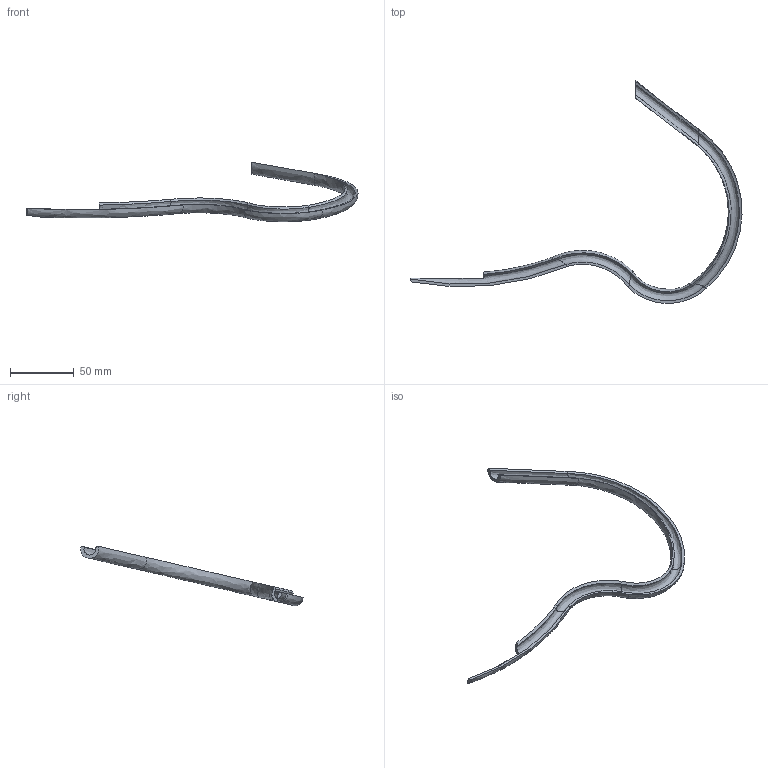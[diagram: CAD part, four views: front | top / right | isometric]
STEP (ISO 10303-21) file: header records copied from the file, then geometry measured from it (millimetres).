
FILE_DESCRIPTION(/* description */ ('STEP AP242 Edition 2','CAx-IF Rec.Pracs.---Representation and Presentation of Product Manufacturing Information (PMI)---4.0---2014-10-13','CAx-IF Rec.Pracs.---3D Tessellated Geometry---0.4---2014-09-14','2;1','CAx-IF Rec.Pracs.---User Defined Attributes---1.5---2016-08-15'),/* implementation_level */ '2;1');
FILE_NAME(/* name */ 'Part Studio 1 - Part 11',/* time_stamp */ '2026-10-19T00:09:51Z',/* author */ (''),/* organization */ (''),/* preprocessor_version */ 'ST-DEVELOPER v20',/* originating_system */ 'ONSHAPE BY PTC INC, 1.222',/* authorisation */ ' ');
FILE_SCHEMA (('AP242_MANAGED_MODEL_BASED_3D_ENGINEERING_MIM_LF { 1 0 10303 442 3 1 4 }'));
Length unit declared in the file: metre
Products named in the file (1): Part 11
Bounding box: 259.93 x 174.16 x 46.61 mm (x, y, z)
Volume: 17414.3 mm3; surface area: 18071.4 mm2
Topology: 1 solids, 1 shells, 24 faces, 50 edges, 28 vertices
Faces by surface type: bspline 18, plane 6
Entity records: 1149 total; most frequent: CARTESIAN_POINT 676, ORIENTED_EDGE 100, DIRECTION 87, EDGE_CURVE 50, AXIS2_PLACEMENT_3D 35, VERTEX_POINT 28, CIRCLE 28, EDGE_LOOP 24
